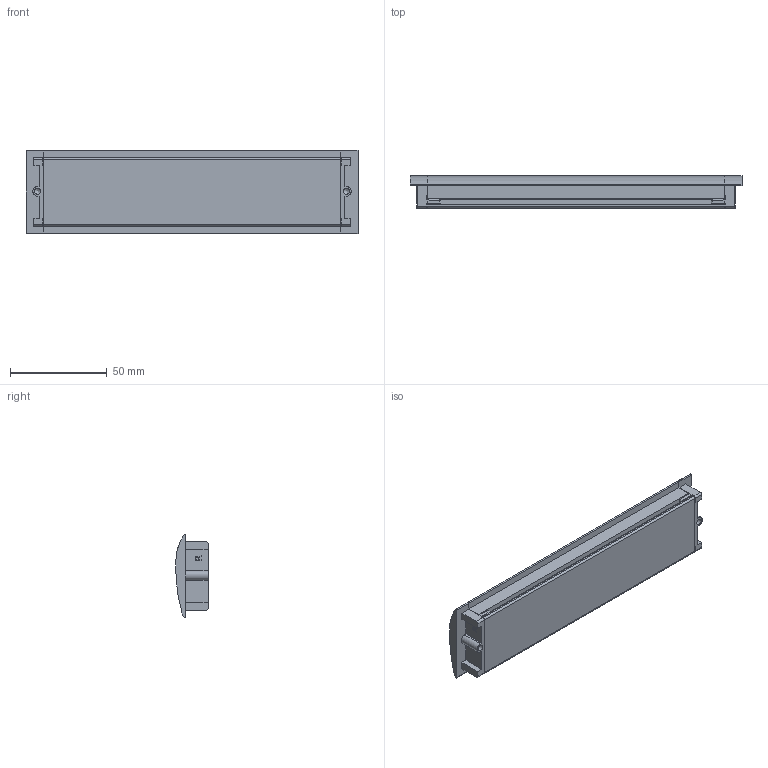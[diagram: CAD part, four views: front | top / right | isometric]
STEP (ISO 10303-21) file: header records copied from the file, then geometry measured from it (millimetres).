
FILE_DESCRIPTION(/* description */ (''),/* implementation_level */ '2;1');
FILE_NAME(/* name */ 'D:\$WorkingFolder\Designs\Meblowka\uchwyty\UA-...-326\UA-...-326...-..._\UA-...-3260160-....stp',/* time_stamp */ '2020-11-20T10:35:26+01:00',/* author */ ('ElizaL'),/* organization */ (''),/* preprocessor_version */ 'ST-DEVELOPER v18.1',/* originating_system */ 'Autodesk Inventor 2020',/* authorisation */ '');
FILE_SCHEMA (('AUTOMOTIVE_DESIGN { 1 0 10303 214 3 1 1 }'));
Length unit declared in the file: millimetre
Products named in the file (1): UA-...-326160-...
Bounding box: 172 x 16.7 x 43.4 mm (x, y, z)
Volume: 28639.8 mm3; surface area: 29187.2 mm2
Topology: 3 solids, 3 shells, 231 faces, 582 edges, 362 vertices
Faces by surface type: plane 117, cylinder 73, bspline 23, sphere 16, cone 2
Full cylindrical faces by diameter (mm): 3.242 x2
Entity records: 7177 total; most frequent: CARTESIAN_POINT 1366, ORIENTED_EDGE 1160, DIRECTION 1150, EDGE_CURVE 580, LINE 400, VECTOR 400, AXIS2_PLACEMENT_3D 375, VERTEX_POINT 362
